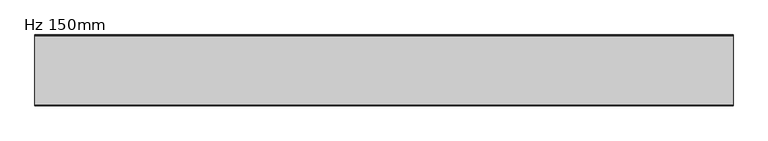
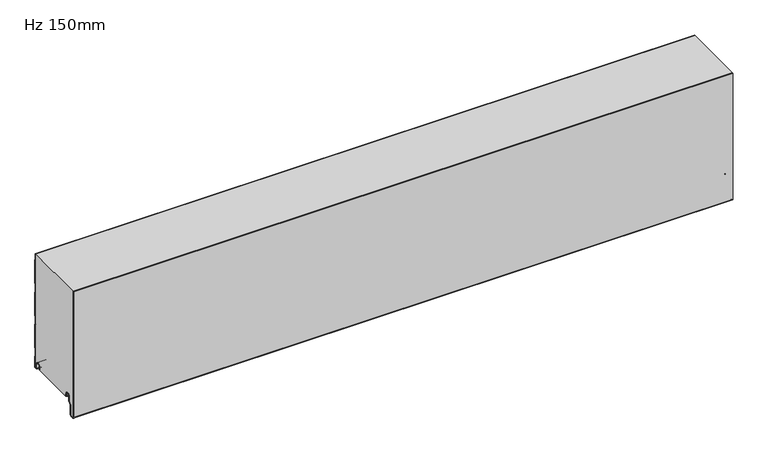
"""IFC4 building model written with IfcOpenShell, lengths in millimetres: plate geometry, KIP-MEX-KSS-1067-R19-CP-Hz-OP_SL : Hz 150mm."""

from ifc_helpers import new_model, si_unit, point, frame, frame_2d, origin, place, context, project, spatial, polyline, circle_curve, trimmed, segment, composite_curve, outline, extrude, source, transform, mapped, element, save
from ifc_brep_helpers import plane_surface, cylinder_surface, revolved_surface, advanced_brep


def hz_150mm_f9b8a2df(model_context):
    return source(origin(), model_context, "Body", "SolidModel", [
        advanced_brep(
        [(-740.0, -17.0015159, 2.0313088), (-740.0, -18.0015191, 1.0313116), (-740.0, -19.0015105, 2.0313088), (-740.0, -19.0015105, 6.0315125), (-740.0, -18.0015159, 6.0315125), (-740.0, -18.0015159, 8.7237223), (-740.0, -14.7015202, 12.023718), (-740.0, -10.301529, 12.023718), (-740.0, -7.0015335, 8.7237225), (-740.0, -7.0015335, -1.6962564), (-740.0, -5.2315393, -3.4662506), (-740.0, -0.9999916, -3.4662506), (-740.0, -0.9999916, 21.034026), (-740.0, -2.2002307, 22.4196686), (-740.0, -2.2002307, 41.7948349), (-740.0, -1.0, 43.1804679), (-740.0, -1.0, 97.2338833), (-740.0, -2.2002307, 98.6195162), (-740.0, -2.2002307, 117.9946825), (-740.0, -1.0, 119.3803155), (-740.0, -1.0, 173.4337309), (-740.0, -2.2002307, 174.8193638), (-740.0, -2.2002307, 194.1945301), (-740.0, -1.0, 195.5801631), (-740.0, -1.0, 249.6335785), (-740.0, -2.2002307, 251.0192114), (-740.0, -2.2002307, 266.0), (-740.0, -1.2002307, 266.0), (-740.0, -1.2002307, 251.3920919), (-740.0, -0.3417885, 250.4010442), (-740.0, 0.0, 249.4844273), (-740.0, 0.0, 195.7293142), (-740.0, -0.3417885, 194.8126973), (-740.0, -1.2002307, 193.8216497), (-740.0, -1.2002307, 175.1922443), (-740.0, -0.3417885, 174.2011966), (-740.0, 0.0, 173.2845797), (-740.0, 0.0, 119.5294666), (-740.0, -0.3417885, 118.6128497), (-740.0, -1.2002307, 117.6218021), (-740.0, -1.2002307, 98.9923967), (-740.0, -0.3417885, 98.001349), (-740.0, 0.0, 97.0847321), (-740.0, 0.0, 43.329619), (-740.0, -0.3417885, 42.4130021), (-740.0, -1.2002307, 41.4219545), (-740.0, -1.2002307, 22.7925491), (-740.0, -0.3417885, 21.8015014), (-740.0, 0.0, 20.8847931), (-740.0, 8.4e-06, -3.0662545), (-740.0, -1.3999878, -4.4662506), (-740.0, -5.2315393, -4.4662506), (-740.0, -8.0015335, -1.6962564), (-740.0, -8.0015335, 8.7237225), (-740.0, -10.301529, 11.023718), (-740.0, -14.7015202, 11.023718), (-740.0, -17.0015159, 8.7237223), (740.0, -17.0015159, 2.0313088), (740.0, -17.0015159, 8.7237223), (740.0, -14.7015202, 11.023718), (740.0, -10.301529, 11.023718), (740.0, -8.0015335, 8.7237225), (740.0, -8.0015335, -1.6962564), (740.0, -5.2315393, -4.4662506), (740.0, -1.3999878, -4.4662506), (740.0, 8.4e-06, -3.0662545), (740.0, 8.4e-06, 20.8848845), (740.0, -0.3417885, 21.8015014), (740.0, -1.2002307, 22.7925491), (740.0, -1.2002307, 41.4219545), (740.0, -0.3417885, 42.4130021), (740.0, 0.0, 43.329619), (740.0, 0.0, 97.0847321), (740.0, -0.3417885, 98.001349), (740.0, -1.2002307, 98.9923967), (740.0, -1.2002307, 117.6218021), (740.0, -0.3417885, 118.6128497), (740.0, 0.0, 119.5294666), (740.0, 0.0, 173.2845797), (740.0, -0.3417885, 174.2011966), (740.0, -1.2002307, 175.1922443), (740.0, -1.2002307, 193.8216497), (740.0, -0.3417885, 194.8126973), (740.0, 0.0, 195.7293142), (740.0, 0.0, 249.4844273), (740.0, -0.3417885, 250.4010442), (740.0, -1.2002307, 251.3920919), (740.0, -1.2002307, 266.0), (740.0, -2.2002307, 266.0), (740.0, -2.2002307, 251.0192114), (740.0, -1.0, 249.6335785), (740.0, -1.0, 195.5801631), (740.0, -2.2002307, 194.1945301), (740.0, -2.2002307, 174.8193638), (740.0, -1.0, 173.4337309), (740.0, -1.0, 119.3803155), (740.0, -2.2002307, 117.9946825), (740.0, -2.2002307, 98.6195162), (740.0, -1.0, 97.2338833), (740.0, -1.0, 43.1804679), (740.0, -2.2002307, 41.7948349), (740.0, -2.2002307, 22.4196686), (740.0, -0.9999916, 21.034026), (740.0, -0.9999916, -3.4662506), (740.0, -5.2315393, -3.4662506), (740.0, -7.0015335, -1.6962564), (740.0, -7.0015335, 8.7237225), (740.0, -10.301529, 12.023718), (740.0, -14.7015202, 12.023718), (740.0, -18.0015159, 8.7237223), (740.0, -18.0015159, 6.0315125), (740.0, -19.0015105, 6.0315125), (740.0, -19.0015105, 2.0313088), (740.0, -18.0015192, 1.0313116)],
        [
            (0, 1, circle_curve(frame((-740.0, -18.0015132, 2.0313088), z_axis=(-1.0, 0.0, 0.0), x_axis=(0.0, 0.0, 1.0)), 0.9999973)),
            (1, 2, circle_curve(frame((-740.0, -18.0015133, 2.0313088), z_axis=(-1.0, 0.0, 0.0), x_axis=(0.0, 0.0, 1.0)), 0.9999972)),
            (2, 3),
            (3, 4),
            (4, 5),
            (5, 6, circle_curve(frame((-740.0, -14.7015202, 8.7237223), z_axis=(-1.0, 0.0, 0.0), x_axis=(0.0, 0.0, 1.0)), 3.2999957)),
            (6, 7),
            (7, 8, circle_curve(frame((-740.0, -10.301529, 8.7237225), z_axis=(-1.0, 0.0, 0.0), x_axis=(0.0, 0.0, 1.0)), 3.2999955)),
            (8, 9),
            (9, 10, circle_curve(frame((-740.0, -5.2315393, -1.6962564), z_axis=(1.0, 0.0, 0.0), x_axis=(0.0, 0.0, 1.0)), 1.7699942)),
            (10, 11),
            (11, 12),
            (12, 13),
            (13, 14),
            (14, 15),
            (15, 16),
            (16, 17),
            (17, 18),
            (18, 19),
            (19, 20),
            (20, 21),
            (21, 22),
            (22, 23),
            (23, 24),
            (24, 25),
            (25, 26),
            (26, 27),
            (27, 28),
            (28, 29),
            (29, 30, circle_curve(frame((-740.0, -1.3999972, 249.4844273), z_axis=(-1.0, 0.0, 0.0), x_axis=(0.0, 0.0, 1.0)), 1.3999972)),
            (30, 31),
            (31, 32, circle_curve(frame((-740.0, -1.3999972, 195.7293142), z_axis=(-1.0, 0.0, 0.0), x_axis=(0.0, 0.0, 1.0)), 1.3999972)),
            (32, 33),
            (33, 34),
            (34, 35),
            (35, 36, circle_curve(frame((-740.0, -1.3999972, 173.2845797), z_axis=(-1.0, 0.0, 0.0), x_axis=(0.0, 0.0, 1.0)), 1.3999972)),
            (36, 37),
            (37, 38, circle_curve(frame((-740.0, -1.3999972, 119.5294666), z_axis=(-1.0, 0.0, 0.0), x_axis=(0.0, 0.0, 1.0)), 1.3999972)),
            (38, 39),
            (39, 40),
            (40, 41),
            (41, 42, circle_curve(frame((-740.0, -1.3999972, 97.0847321), z_axis=(-1.0, 0.0, 0.0), x_axis=(0.0, 0.0, 1.0)), 1.3999972)),
            (42, 43),
            (43, 44, circle_curve(frame((-740.0, -1.3999972, 43.329619), z_axis=(-1.0, 0.0, 0.0), x_axis=(0.0, 0.0, 1.0)), 1.3999972)),
            (44, 45),
            (45, 46),
            (46, 47),
            (47, 48, circle_curve(frame((-740.0, -1.3999972, 20.8848845), z_axis=(-1.0, 0.0, 0.0), x_axis=(0.0, 0.0, 1.0)), 1.3999972)),
            (48, 49),
            (49, 50, circle_curve(frame((-740.0, -1.3999878, -3.0662545), z_axis=(-1.0, 0.0, 0.0), x_axis=(0.0, 0.0, 1.0)), 1.3999962)),
            (50, 51),
            (51, 52, circle_curve(frame((-740.0, -5.2315393, -1.6962564), z_axis=(-1.0, 0.0, 0.0), x_axis=(0.0, 0.0, 1.0)), 2.7699942)),
            (52, 53),
            (53, 54, circle_curve(frame((-740.0, -10.301529, 8.7237225), z_axis=(1.0, 0.0, 0.0), x_axis=(0.0, 0.0, 1.0)), 2.2999955)),
            (54, 55),
            (55, 56, circle_curve(frame((-740.0, -14.7015202, 8.7237223), z_axis=(1.0, 0.0, 0.0), x_axis=(0.0, 0.0, 1.0)), 2.2999957)),
            (56, 0),
            (57, 58),
            (58, 59, circle_curve(frame((740.0, -14.7015202, 8.7237223), z_axis=(-1.0, 0.0, 0.0), x_axis=(0.0, 0.0, 1.0)), 2.2999957)),
            (59, 60),
            (60, 61, circle_curve(frame((740.0, -10.301529, 8.7237225), z_axis=(-1.0, 0.0, 0.0), x_axis=(0.0, 0.0, 1.0)), 2.2999955)),
            (61, 62),
            (62, 63, circle_curve(frame((740.0, -5.2315393, -1.6962564), z_axis=(1.0, 0.0, 0.0), x_axis=(0.0, 0.0, 1.0)), 2.7699942)),
            (63, 64),
            (64, 65, circle_curve(frame((740.0, -1.3999878, -3.0662545), z_axis=(1.0, 0.0, 0.0), x_axis=(0.0, 0.0, 1.0)), 1.3999962)),
            (65, 66),
            (66, 67, circle_curve(frame((740.0, -1.3999972, 20.8848845), z_axis=(1.0, 0.0, 0.0), x_axis=(0.0, 0.0, 1.0)), 1.3999972)),
            (67, 68),
            (68, 69),
            (69, 70),
            (70, 71, circle_curve(frame((740.0, -1.3999972, 43.329619), z_axis=(1.0, 0.0, 0.0), x_axis=(0.0, 0.0, 1.0)), 1.3999972)),
            (71, 72),
            (72, 73, circle_curve(frame((740.0, -1.3999972, 97.0847321), z_axis=(1.0, 0.0, 0.0), x_axis=(0.0, 0.0, 1.0)), 1.3999972)),
            (73, 74),
            (74, 75),
            (75, 76),
            (76, 77, circle_curve(frame((740.0, -1.3999972, 119.5294666), z_axis=(1.0, 0.0, 0.0), x_axis=(0.0, 0.0, 1.0)), 1.3999972)),
            (77, 78),
            (78, 79, circle_curve(frame((740.0, -1.3999972, 173.2845797), z_axis=(1.0, 0.0, 0.0), x_axis=(0.0, 0.0, 1.0)), 1.3999972)),
            (79, 80),
            (80, 81),
            (81, 82),
            (82, 83, circle_curve(frame((740.0, -1.3999972, 195.7293142), z_axis=(1.0, 0.0, 0.0), x_axis=(0.0, 0.0, 1.0)), 1.3999972)),
            (83, 84),
            (84, 85, circle_curve(frame((740.0, -1.3999972, 249.4844273), z_axis=(1.0, 0.0, 0.0), x_axis=(0.0, 0.0, 1.0)), 1.3999972)),
            (85, 86),
            (86, 87),
            (87, 88),
            (88, 89),
            (89, 90),
            (90, 91),
            (91, 92),
            (92, 93),
            (93, 94),
            (94, 95),
            (95, 96),
            (96, 97),
            (97, 98),
            (98, 99),
            (99, 100),
            (100, 101),
            (101, 102),
            (102, 103),
            (103, 104),
            (104, 105, circle_curve(frame((740.0, -5.2315393, -1.6962564), z_axis=(-1.0, 0.0, 0.0), x_axis=(0.0, 0.0, 1.0)), 1.7699942)),
            (105, 106),
            (106, 107, circle_curve(frame((740.0, -10.301529, 8.7237225), z_axis=(1.0, 0.0, 0.0), x_axis=(0.0, 0.0, 1.0)), 3.2999955)),
            (107, 108),
            (108, 109, circle_curve(frame((740.0, -14.7015202, 8.7237223), z_axis=(1.0, 0.0, 0.0), x_axis=(0.0, 0.0, 1.0)), 3.2999957)),
            (109, 110),
            (110, 111),
            (111, 112),
            (112, 113, circle_curve(frame((740.0, -18.0015133, 2.0313088), z_axis=(1.0, 0.0, 0.0), x_axis=(0.0, 0.0, 1.0)), 0.9999972)),
            (113, 57, circle_curve(frame((740.0, -18.0015132, 2.0313088), z_axis=(1.0, 0.0, 0.0), x_axis=(0.0, 0.0, 1.0)), 0.9999973)),
            (56, 58),
            (57, 0),
            (55, 59),
            (54, 60),
            (53, 61),
            (52, 62),
            (51, 63),
            (50, 64),
            (49, 65),
            (48, 66),
            (47, 67),
            (46, 68),
            (45, 69),
            (44, 70),
            (43, 71),
            (42, 72),
            (41, 73),
            (40, 74),
            (39, 75),
            (38, 76),
            (37, 77),
            (36, 78),
            (35, 79),
            (34, 80),
            (33, 81),
            (32, 82),
            (31, 83),
            (30, 84),
            (29, 85),
            (28, 86),
            (27, 87),
            (88, 26),
            (25, 89),
            (24, 90),
            (23, 91),
            (22, 92),
            (21, 93),
            (20, 94),
            (19, 95),
            (18, 96),
            (17, 97),
            (16, 98),
            (15, 99),
            (14, 100),
            (13, 101),
            (12, 102),
            (11, 103),
            (10, 104),
            (9, 105),
            (8, 106),
            (7, 107),
            (6, 108),
            (5, 109),
            (4, 110),
            (3, 111),
            (2, 112),
            (1, 113),
        ],
        [
            plane_surface(frame((-740.0, 0.0, 533.4), z_axis=(-1.0, 0.0, 0.0), x_axis=(0.0, 1.0, 0.0))),
            plane_surface(frame((740.0, 0.0, 533.4), z_axis=(1.0, 0.0, 0.0), x_axis=(0.0, 1.0, 0.0))),
            plane_surface(frame((-740.0, -17.0015159, 2.0313088), z_axis=(0.0, 1.0, 0.0), x_axis=(1.0, 0.0, 0.0))),
            revolved_surface(polyline([(740.0, -14.7015202, 11.023718), (-740.0, -14.7015202, 11.023718)]), (-740.0, -14.7015202, 8.7237223), (1.0, 0.0, 0.0)),
            plane_surface(frame((-740.0, -14.7015202, 11.023718), z_axis=(0.0, 0.0, -1.0), x_axis=(1.0, 0.0, 0.0))),
            revolved_surface(polyline([(740.0, -10.301529, 11.023717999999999), (-740.0, -10.301529, 11.023717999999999)]), (-740.0, -10.301529, 8.7237225), (1.0, 0.0, 0.0)),
            plane_surface(frame((-740.0, -8.0015335, 8.7237225), z_axis=(0.0, -1.0, 0.0), x_axis=(1.0, 0.0, 0.0))),
            cylinder_surface(frame((-740.0, -5.2315393, -1.6962564), z_axis=(-1.0, 0.0, 0.0), x_axis=(0.0, 0.0, 1.0)), 2.7699942),
            plane_surface(frame((-740.0, -5.2315393, -4.4662506), z_axis=(0.0, 0.0, -1.0), x_axis=(1.0, 0.0, 0.0))),
            cylinder_surface(frame((-740.0, -1.3999878, -3.0662545), z_axis=(-1.0, 0.0, 0.0), x_axis=(0.0, 0.0, 1.0)), 1.3999962),
            plane_surface(frame((-740.0, 8.4e-06, -3.0662545), z_axis=(0.0, 1.0, 0.0), x_axis=(1.0, 0.0, 0.0))),
            cylinder_surface(frame((-740.0, -1.3999972, 20.8848845), z_axis=(-1.0, 0.0, 0.0), x_axis=(0.0, 0.0, 1.0)), 1.3999972),
            plane_surface(frame((-740.0, -0.3417885, 21.8015014), z_axis=(0.0, 0.755864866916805, 0.6547276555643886), x_axis=(1.0, 0.0, 0.0))),
            plane_surface(frame((-740.0, -1.2002307, 32.1072518), z_axis=(0.0, 1.0, 0.0), x_axis=(1.0, 0.0, 0.0))),
            plane_surface(frame((-740.0, -1.2002307, 41.4219545), z_axis=(0.0, 0.755864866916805, -0.6547276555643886), x_axis=(1.0, 0.0, 0.0))),
            cylinder_surface(frame((-740.0, -1.3999972, 43.329619), z_axis=(-1.0, 0.0, 0.0), x_axis=(0.0, 0.0, 1.0)), 1.3999972),
            plane_surface(frame((-740.0, 0.0, 43.329619), z_axis=(0.0, 1.0, 0.0), x_axis=(1.0, 0.0, 0.0))),
            cylinder_surface(frame((-740.0, -1.3999972, 97.0847321), z_axis=(-1.0, 0.0, 0.0), x_axis=(0.0, 0.0, 1.0)), 1.3999972),
            plane_surface(frame((-740.0, -0.3417885, 98.001349), z_axis=(0.0, 0.755864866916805, 0.6547276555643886), x_axis=(1.0, 0.0, 0.0))),
            plane_surface(frame((-740.0, -1.2002307, 108.3070994), z_axis=(0.0, 1.0, 0.0), x_axis=(1.0, 0.0, 0.0))),
            plane_surface(frame((-740.0, -1.2002307, 117.6218021), z_axis=(0.0, 0.755864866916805, -0.6547276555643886), x_axis=(1.0, 0.0, 0.0))),
            cylinder_surface(frame((-740.0, -1.3999972, 119.5294666), z_axis=(-1.0, 0.0, 0.0), x_axis=(0.0, 0.0, 1.0)), 1.3999972),
            plane_surface(frame((-740.0, 0.0, 119.5294666), z_axis=(0.0, 1.0, 0.0), x_axis=(1.0, 0.0, 0.0))),
            cylinder_surface(frame((-740.0, -1.3999972, 173.2845797), z_axis=(-1.0, 0.0, 0.0), x_axis=(0.0, 0.0, 1.0)), 1.3999972),
            plane_surface(frame((-740.0, -0.3417885, 174.2011966), z_axis=(0.0, 0.755864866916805, 0.6547276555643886), x_axis=(1.0, 0.0, 0.0))),
            plane_surface(frame((-740.0, -1.2002307, 184.506947), z_axis=(0.0, 1.0, 0.0), x_axis=(1.0, 0.0, 0.0))),
            plane_surface(frame((-740.0, -1.2002307, 193.8216497), z_axis=(0.0, 0.755864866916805, -0.6547276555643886), x_axis=(1.0, 0.0, 0.0))),
            cylinder_surface(frame((-740.0, -1.3999972, 195.7293142), z_axis=(-1.0, 0.0, 0.0), x_axis=(0.0, 0.0, 1.0)), 1.3999972),
            plane_surface(frame((-740.0, 0.0, 195.7293142), z_axis=(0.0, 1.0, 0.0), x_axis=(1.0, 0.0, 0.0))),
            cylinder_surface(frame((-740.0, -1.3999972, 249.4844273), z_axis=(-1.0, 0.0, 0.0), x_axis=(0.0, 0.0, 1.0)), 1.3999972),
            plane_surface(frame((-740.0, -0.3417885, 250.4010442), z_axis=(0.0, 0.755864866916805, 0.6547276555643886), x_axis=(1.0, 0.0, 0.0))),
            plane_surface(frame((-740.0, -1.2002307, 260.7067946), z_axis=(0.0, 1.0, 0.0), x_axis=(1.0, 0.0, 0.0))),
            plane_surface(frame((-740.0, -2.2002307, 270.3943777), z_axis=(0.0, -1.0, 0.0), x_axis=(1.0, 0.0, 0.0))),
            plane_surface(frame((-740.0, -2.2002307, 251.0192114), z_axis=(0.0, -0.755864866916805, -0.6547276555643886), x_axis=(1.0, 0.0, 0.0))),
            plane_surface(frame((-740.0, -1.0, 249.6335785), z_axis=(0.0, -1.0, 0.0), x_axis=(1.0, 0.0, 0.0))),
            plane_surface(frame((-740.0, -1.0, 195.5801631), z_axis=(0.0, -0.755864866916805, 0.6547276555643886), x_axis=(1.0, 0.0, 0.0))),
            plane_surface(frame((-740.0, -2.2002307, 194.1945301), z_axis=(0.0, -1.0, 0.0), x_axis=(1.0, 0.0, 0.0))),
            plane_surface(frame((-740.0, -2.2002307, 174.8193638), z_axis=(0.0, -0.755864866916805, -0.6547276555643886), x_axis=(1.0, 0.0, 0.0))),
            plane_surface(frame((-740.0, -1.0, 173.4337309), z_axis=(0.0, -1.0, 0.0), x_axis=(1.0, 0.0, 0.0))),
            plane_surface(frame((-740.0, -1.0, 119.3803155), z_axis=(0.0, -0.755864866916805, 0.6547276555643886), x_axis=(1.0, 0.0, 0.0))),
            plane_surface(frame((-740.0, -2.2002307, 117.9946825), z_axis=(0.0, -1.0, 0.0), x_axis=(1.0, 0.0, 0.0))),
            plane_surface(frame((-740.0, -2.2002307, 98.6195162), z_axis=(0.0, -0.755864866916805, -0.6547276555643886), x_axis=(1.0, 0.0, 0.0))),
            plane_surface(frame((-740.0, -1.0, 97.2338833), z_axis=(0.0, -1.0, 0.0), x_axis=(1.0, 0.0, 0.0))),
            plane_surface(frame((-740.0, -1.0, 43.1804679), z_axis=(0.0, -0.755864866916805, 0.6547276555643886), x_axis=(1.0, 0.0, 0.0))),
            plane_surface(frame((-740.0, -2.2002307, 41.7948349), z_axis=(0.0, -1.0, 0.0), x_axis=(1.0, 0.0, 0.0))),
            plane_surface(frame((-740.0, -2.2002307, 22.4196686), z_axis=(0.0, -0.755864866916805, -0.6547276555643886), x_axis=(1.0, 0.0, 0.0))),
            plane_surface(frame((-740.0, -0.9999916, 21.034026), z_axis=(0.0, -1.0, 0.0), x_axis=(1.0, 0.0, 0.0))),
            plane_surface(frame((-740.0, -0.9999916, -3.4662506), z_axis=(0.0, 0.0, 1.0), x_axis=(1.0, 0.0, 0.0))),
            revolved_surface(polyline([(740.0, -5.2315393, 0.07373779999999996), (-740.0, -5.2315393, 0.07373779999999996)]), (-740.0, -5.2315393, -1.6962564), (1.0, 0.0, 0.0)),
            plane_surface(frame((-740.0, -7.0015335, -1.6962564), z_axis=(0.0, 1.0, 0.0), x_axis=(1.0, 0.0, 0.0))),
            cylinder_surface(frame((-740.0, -10.301529, 8.7237225), z_axis=(-1.0, 0.0, 0.0), x_axis=(0.0, 0.0, 1.0)), 3.2999955),
            plane_surface(frame((-740.0, -10.301529, 12.023718), z_axis=(0.0, 0.0, 1.0), x_axis=(1.0, 0.0, 0.0))),
            cylinder_surface(frame((-740.0, -14.7015202, 8.7237223), z_axis=(-1.0, 0.0, 0.0), x_axis=(0.0, 0.0, 1.0)), 3.2999957),
            plane_surface(frame((-740.0, -18.0015159, 8.7237223), z_axis=(0.0, -1.0, 0.0), x_axis=(1.0, 0.0, 0.0))),
            plane_surface(frame((-740.0, -18.0015159, 6.0315125), z_axis=(0.0, 0.0, 1.0), x_axis=(1.0, 0.0, 0.0))),
            plane_surface(frame((-740.0, -19.0015105, 6.0315125), z_axis=(0.0, -1.0, 0.0), x_axis=(1.0, 0.0, 0.0))),
            cylinder_surface(frame((-740.0, -18.0015133, 2.0313088), z_axis=(-1.0, 0.0, 0.0), x_axis=(0.0, 0.0, 1.0)), 0.9999972),
            cylinder_surface(frame((-740.0, -18.0015132, 2.0313088), z_axis=(-1.0, 0.0, 0.0), x_axis=(0.0, 0.0, 1.0)), 0.9999973),
            plane_surface(frame((740.0, 10.0, 266.0), z_axis=(0.0, 0.0, 1.0), x_axis=(-1.0, 0.0, 0.0))),
        ],
        [
            (0, [[1, 2, 3, 4, 5, 6, 7, 8, 9, 10, 11, 12, 13, 14, 15, 16, 17, 18, 19, 20, 21, 22, 23, 24, 25, 26, 27, 28, 29, 30, 31, 32, 33, 34, 35, 36, 37, 38, 39, 40, 41, 42, 43, 44, 45, 46, 47, 48, 49, 50, 51, 52, 53, 54, 55, 56, 57]]),
            (1, [[58, 59, 60, 61, 62, 63, 64, 65, 66, 67, 68, 69, 70, 71, 72, 73, 74, 75, 76, 77, 78, 79, 80, 81, 82, 83, 84, 85, 86, 87, 88, 89, 90, 91, 92, 93, 94, 95, 96, 97, 98, 99, 100, 101, 102, 103, 104, 105, 106, 107, 108, 109, 110, 111, 112, 113, 114]]),
            (2, [[115, -58, 116, -57]]),
            (3, [[117, -59, -115, -56]]),
            (4, [[118, -60, -117, -55]]),
            (5, [[119, -61, -118, -54]]),
            (6, [[120, -62, -119, -53]]),
            (7, [[121, -63, -120, -52]]),
            (8, [[122, -64, -121, -51]]),
            (9, [[123, -65, -122, -50]]),
            (10, [[124, -66, -123, -49]]),
            (11, [[125, -67, -124, -48]]),
            (12, [[126, -68, -125, -47]]),
            (13, [[127, -69, -126, -46]]),
            (14, [[128, -70, -127, -45]]),
            (15, [[129, -71, -128, -44]]),
            (16, [[130, -72, -129, -43]]),
            (17, [[131, -73, -130, -42]]),
            (18, [[132, -74, -131, -41]]),
            (19, [[133, -75, -132, -40]]),
            (20, [[134, -76, -133, -39]]),
            (21, [[135, -77, -134, -38]]),
            (22, [[136, -78, -135, -37]]),
            (23, [[137, -79, -136, -36]]),
            (24, [[138, -80, -137, -35]]),
            (25, [[139, -81, -138, -34]]),
            (26, [[140, -82, -139, -33]]),
            (27, [[141, -83, -140, -32]]),
            (28, [[142, -84, -141, -31]]),
            (29, [[143, -85, -142, -30]]),
            (30, [[144, -86, -143, -29]]),
            (31, [[-28, 145, -87, -144]]),
            (32, [[-89, 146, -26, 147]]),
            (33, [[148, -90, -147, -25]]),
            (34, [[149, -91, -148, -24]]),
            (35, [[150, -92, -149, -23]]),
            (36, [[151, -93, -150, -22]]),
            (37, [[152, -94, -151, -21]]),
            (38, [[153, -95, -152, -20]]),
            (39, [[154, -96, -153, -19]]),
            (40, [[155, -97, -154, -18]]),
            (41, [[156, -98, -155, -17]]),
            (42, [[157, -99, -156, -16]]),
            (43, [[158, -100, -157, -15]]),
            (44, [[159, -101, -158, -14]]),
            (45, [[160, -102, -159, -13]]),
            (46, [[161, -103, -160, -12]]),
            (47, [[162, -104, -161, -11]]),
            (48, [[163, -105, -162, -10]]),
            (49, [[164, -106, -163, -9]]),
            (50, [[165, -107, -164, -8]]),
            (51, [[166, -108, -165, -7]]),
            (52, [[167, -109, -166, -6]]),
            (53, [[168, -110, -167, -5]]),
            (54, [[169, -111, -168, -4]]),
            (55, [[170, -112, -169, -3]]),
            (56, [[171, -113, -170, -2]]),
            (57, [[-116, -114, -171, -1]]),
            (58, [[-146, -88, -145, -27]]),
        ],
    ),
        extrude(outline(composite_curve([segment(trimmed(circle_curve(frame_2d((-146.4297607, -32.4521176)), 3.5702393), [point((-146.1184903, -36.008762))], [point((-150.0, -32.4521176))], False, "CARTESIAN"), True, "CONTINUOUS"), segment(polyline([(-150.0, -32.4521176), (-150.0, 266.0), (-148.9993606, 266.0), (-148.9993606, -32.509446)]), True, "CONTINUOUS"), segment(trimmed(circle_curve(frame_2d((-146.4297607, -32.4521176)), 2.5702393), [point((-148.9993606, -32.509446))], [point((-146.2056751, -35.0125699))], True, "CARTESIAN"), True, "CONTINUOUS"), segment(polyline([(-146.2056751, -35.0125699), (-141.2238542, -34.5765709)]), True, "CONTINUOUS"), segment(trimmed(circle_curve(frame_2d((-141.7052448, -31.9198392)), 2.6999926), [point((-141.2238542, -34.5765709))], [point((-139.0052522, -31.9198392))], True, "CARTESIAN"), True, "CONTINUOUS"), segment(polyline([(-139.0052522, -31.9198392), (-139.0052522, -9.8247096), (-133.5031811, -4.3226385)]), True, "CONTINUOUS"), segment(trimmed(circle_curve(frame_2d((-134.7052588, -3.1205608)), 1.6999946), [point((-133.5031811, -4.3226385))], [point((-133.0052642, -3.1205608))], True, "CARTESIAN"), True, "CONTINUOUS"), segment(polyline([(-133.0052642, -3.1205608), (-133.0052642, 8.6903283)]), True, "CONTINUOUS"), segment(trimmed(circle_curve(frame_2d((-129.6552689, 8.6903283)), 3.3499953), [point((-133.0052642, 8.6903283))], [point((-129.6552689, 12.0403236))], False, "CARTESIAN"), True, "CONTINUOUS"), segment(polyline([(-129.6552689, 12.0403236), (-125.2552777, 12.0403236)]), True, "CONTINUOUS"), segment(trimmed(circle_curve(frame_2d((-125.2552777, 8.6903283)), 3.3499953), [point((-125.2552777, 12.0403236))], [point((-121.9052824, 8.6903283))], False, "CARTESIAN"), True, "CONTINUOUS"), segment(polyline([(-121.9052824, 8.6903283), (-121.9052824, 5.9912173), (-120.5068035, 5.9912173), (-120.5068035, 2.2328239)]), True, "CONTINUOUS"), segment(trimmed(circle_curve(frame_2d((-121.7068002, 2.2313092)), 1.1999976), [point((-120.5068035, 2.2328239))], [point((-121.6762782, 1.0316999))], False, "CARTESIAN"), True, "CONTINUOUS"), segment(trimmed(circle_curve(frame_2d((-121.7068002, 2.2313092)), 1.1999976), [point((-121.6762782, 1.0316999))], [point((-122.9052824, 2.1710221))], False, "CARTESIAN"), True, "CONTINUOUS"), segment(polyline([(-122.9052824, 2.1710221), (-122.9052824, 8.6903283)]), True, "CONTINUOUS"), segment(trimmed(circle_curve(frame_2d((-125.2552777, 8.6903283)), 2.3499953), [point((-122.9052824, 8.6903283))], [point((-125.2552777, 11.0403236))], True, "CARTESIAN"), True, "CONTINUOUS"), segment(polyline([(-125.2552777, 11.0403236), (-129.6552689, 11.0403236)]), True, "CONTINUOUS"), segment(trimmed(circle_curve(frame_2d((-129.6552689, 8.6903283)), 2.3499953), [point((-129.6552689, 11.0403236))], [point((-132.0052642, 8.6903283))], True, "CARTESIAN"), True, "CONTINUOUS"), segment(polyline([(-132.0052642, 8.6903283), (-132.0052642, -3.1205608)]), True, "CONTINUOUS"), segment(trimmed(circle_curve(frame_2d((-134.7052588, -3.1205608)), 2.6999946), [point((-132.0052642, -3.1205608))], [point((-132.7960743, -5.0297453))], False, "CARTESIAN"), True, "CONTINUOUS"), segment(polyline([(-132.7960743, -5.0297453), (-137.6244918, -9.8581627)]), True, "CONTINUOUS"), segment(trimmed(circle_curve(frame_2d((-136.7052548, -10.7773997)), 1.2999974), [point((-137.6244918, -9.8581627))], [point((-138.0052522, -10.7773997))], True, "CARTESIAN"), True, "CONTINUOUS"), segment(polyline([(-138.0052522, -10.7773997), (-138.0052522, -31.9198392)]), True, "CONTINUOUS"), segment(trimmed(circle_curve(frame_2d((-141.7052448, -31.9198392)), 3.6999926), [point((-138.0052522, -31.9198392))], [point((-141.0944437, -35.5690675))], False, "CARTESIAN"), True, "CONTINUOUS"), segment(polyline([(-141.0944437, -35.5690675), (-146.1184903, -36.008762)]), True, "CONTINUOUS")], self_intersect=False)), frame((-740.0, 0.0, 0.0), z_axis=(1.0, 0.0, 0.0), x_axis=(0.0, 1.0, 0.0)), (0.0, 0.0, 1.0), 1480.0),
        advanced_brep(
        [(-740.0, -121.670875, 1.0316999), (-740.0, -120.5014003, 2.2328239), (-740.0, -120.5014003, 5.9912173), (-740.0, -121.8998791, 5.9912173), (-740.0, -121.8998791, 8.6903283), (-740.0, -125.2498744, 12.0403236), (-740.0, -129.6498656, 12.0403236), (-740.0, -132.9998609, 8.6903283), (-740.0, -132.9998609, -3.1205608), (-740.0, -133.4977778, -4.3226385), (-740.0, -138.9998489, -9.8247096), (-740.0, -138.9998489, -31.9198392), (-740.0, -141.2184509, -34.5765709), (-740.0, -146.2002718, -35.0125699), (-740.0, -148.9945967, -32.4521176), (-740.0, -149.0, 266.0), (-740.0, -2.2002307, 266.0), (-740.0, -2.2002307, 251.0192115), (-740.0, -1.0, 249.6335785), (-740.0, -1.0, 195.5801631), (-740.0, -2.2002307, 194.1945302), (-740.0, -2.2002307, 174.8193639), (-740.0, -1.0, 173.4337309), (-740.0, -1.0, 119.3803155), (-740.0, -2.2002307, 117.9946826), (-740.0, -2.2002307, 98.6195163), (-740.0, -1.0, 97.2338833), (-740.0, -1.0, 43.1804679), (-740.0, -2.2002307, 41.794835), (-740.0, -2.2002307, 22.4196687), (-740.0, -0.9999916, 21.034026), (-740.0, -0.9999916, -3.4662506), (-740.0, -5.2315389, -3.4662506), (-740.0, -7.0015331, -1.6962564), (-740.0, -7.0015331, 8.7237222), (-740.0, -10.301529, 12.023718), (-740.0, -14.7015202, 12.023718), (-740.0, -18.0015159, 8.7237223), (-740.0, -18.0015159, 6.0315125), (-740.0, -19.0015105, 6.0315125), (-740.0, -19.0015105, 2.0313089), (-740.0, -18.0015192, 1.0313117), (-740.0, -19.0328308, 0.0), (-740.0, -120.6391751, 0.0), (740.0, -121.670875, 1.0316999), (740.0, -120.6391751, 0.0), (740.0, -19.0328308, 0.0), (740.0, -18.0015192, 1.0313117), (740.0, -19.0015105, 2.0313089), (740.0, -19.0015105, 6.0315125), (740.0, -18.0015159, 6.0315125), (740.0, -18.0015159, 8.7237223), (740.0, -14.7015202, 12.023718), (740.0, -10.301529, 12.023718), (740.0, -7.0015331, 8.7237222), (740.0, -7.0015331, -1.6962564), (740.0, -5.2315389, -3.4662506), (740.0, -0.9999916, -3.4662506), (740.0, -0.9999916, 21.034026), (740.0, -2.2002307, 22.4196687), (740.0, -2.2002307, 41.794835), (740.0, -1.0, 43.1804679), (740.0, -1.0, 97.2338833), (740.0, -2.2002307, 98.6195163), (740.0, -2.2002307, 117.9946826), (740.0, -1.0, 119.3803155), (740.0, -1.0, 173.4337309), (740.0, -2.2002307, 174.8193639), (740.0, -2.2002307, 194.1945302), (740.0, -1.0, 195.5801631), (740.0, -1.0, 249.6335785), (740.0, -2.2002307, 251.0192115), (740.0, -2.2002307, 266.0), (740.0, -149.0, 266.0), (740.0, -149.0, -32.4521176), (740.0, -146.2002718, -35.0125699), (740.0, -141.2184509, -34.5765709), (740.0, -138.9998489, -31.9198392), (740.0, -138.9998489, -9.8247096), (740.0, -133.4977778, -4.3226385), (740.0, -132.9998609, -3.1205608), (740.0, -132.9998609, 8.6903283), (740.0, -129.6498656, 12.0403236), (740.0, -125.2498744, 12.0403236), (740.0, -121.8998791, 8.6903283), (740.0, -121.8998791, 5.9912173), (740.0, -120.5014003, 5.9912173), (740.0, -120.5014003, 2.2328239)],
        [
            (0, 1, circle_curve(frame((-740.0, -121.7013969, 2.2313092), z_axis=(1.0, 0.0, 0.0), x_axis=(0.0, 0.0, -1.0)), 1.1999976)),
            (1, 2),
            (2, 3),
            (3, 4),
            (4, 5, circle_curve(frame((-740.0, -125.2498744, 8.6903283), z_axis=(1.0, 0.0, 0.0), x_axis=(0.0, 0.0, -1.0)), 3.3499953)),
            (5, 6),
            (6, 7, circle_curve(frame((-740.0, -129.6498656, 8.6903283), z_axis=(1.0, 0.0, 0.0), x_axis=(0.0, 0.0, -1.0)), 3.3499953)),
            (7, 8),
            (8, 9, circle_curve(frame((-740.0, -134.6998555, -3.1205608), z_axis=(-1.0, 0.0, 0.0), x_axis=(0.0, 0.0, -1.0)), 1.6999946)),
            (9, 10),
            (10, 11),
            (11, 12, circle_curve(frame((-740.0, -141.6998415, -31.9198392), z_axis=(-1.0, 0.0, 0.0), x_axis=(0.0, 0.0, -1.0)), 2.6999926)),
            (12, 13),
            (13, 14, circle_curve(frame((-740.0, -146.4243575, -32.4521176), z_axis=(-1.0, 0.0, 0.0), x_axis=(0.0, 0.0, -1.0)), 2.5702393)),
            (14, 15),
            (15, 16),
            (16, 17),
            (17, 18),
            (18, 19),
            (19, 20),
            (20, 21),
            (21, 22),
            (22, 23),
            (23, 24),
            (24, 25),
            (25, 26),
            (26, 27),
            (27, 28),
            (28, 29),
            (29, 30),
            (30, 31),
            (31, 32),
            (32, 33, circle_curve(frame((-740.0, -5.2315389, -1.6962564), z_axis=(-1.0, 0.0, 0.0), x_axis=(0.0, 0.0, -1.0)), 1.7699942)),
            (33, 34),
            (34, 35, circle_curve(frame((-740.0, -10.301529, 8.7237222), z_axis=(1.0, 0.0, 0.0), x_axis=(0.0, 0.0, -1.0)), 3.2999959)),
            (35, 36),
            (36, 37, circle_curve(frame((-740.0, -14.7015202, 8.7237223), z_axis=(1.0, 0.0, 0.0), x_axis=(0.0, 0.0, -1.0)), 3.2999957)),
            (37, 38),
            (38, 39),
            (39, 40),
            (40, 41, circle_curve(frame((-740.0, -18.0015133, 2.0313089), z_axis=(1.0, 0.0, 0.0), x_axis=(0.0, 0.0, -1.0)), 0.9999972)),
            (41, 42),
            (42, 43),
            (43, 0),
            (44, 45),
            (45, 46),
            (46, 47),
            (47, 48, circle_curve(frame((740.0, -18.0015133, 2.0313089), z_axis=(-1.0, 0.0, 0.0), x_axis=(0.0, 0.0, -1.0)), 0.9999972)),
            (48, 49),
            (49, 50),
            (50, 51),
            (51, 52, circle_curve(frame((740.0, -14.7015202, 8.7237223), z_axis=(-1.0, 0.0, 0.0), x_axis=(0.0, 0.0, -1.0)), 3.2999957)),
            (52, 53),
            (53, 54, circle_curve(frame((740.0, -10.301529, 8.7237222), z_axis=(-1.0, 0.0, 0.0), x_axis=(0.0, 0.0, -1.0)), 3.2999959)),
            (54, 55),
            (55, 56, circle_curve(frame((740.0, -5.2315389, -1.6962564), z_axis=(1.0, 0.0, 0.0), x_axis=(0.0, 0.0, -1.0)), 1.7699942)),
            (56, 57),
            (57, 58),
            (58, 59),
            (59, 60),
            (60, 61),
            (61, 62),
            (62, 63),
            (63, 64),
            (64, 65),
            (65, 66),
            (66, 67),
            (67, 68),
            (68, 69),
            (69, 70),
            (70, 71),
            (71, 72),
            (72, 73),
            (73, 74),
            (74, 75, circle_curve(frame((740.0, -146.4243575, -32.4521176), z_axis=(1.0, 0.0, 0.0), x_axis=(0.0, 0.0, -1.0)), 2.5702393)),
            (75, 76),
            (76, 77, circle_curve(frame((740.0, -141.6998415, -31.9198392), z_axis=(1.0, 0.0, 0.0), x_axis=(0.0, 0.0, -1.0)), 2.6999926)),
            (77, 78),
            (78, 79),
            (79, 80, circle_curve(frame((740.0, -134.6998555, -3.1205608), z_axis=(1.0, 0.0, 0.0), x_axis=(0.0, 0.0, -1.0)), 1.6999946)),
            (80, 81),
            (81, 82, circle_curve(frame((740.0, -129.6498656, 8.6903283), z_axis=(-1.0, 0.0, 0.0), x_axis=(0.0, 0.0, -1.0)), 3.3499953)),
            (82, 83),
            (83, 84, circle_curve(frame((740.0, -125.2498744, 8.6903283), z_axis=(-1.0, 0.0, 0.0), x_axis=(0.0, 0.0, -1.0)), 3.3499953)),
            (84, 85),
            (85, 86),
            (86, 87),
            (87, 44, circle_curve(frame((740.0, -121.7013969, 2.2313092), z_axis=(-1.0, 0.0, 0.0), x_axis=(0.0, 0.0, -1.0)), 1.1999976)),
            (41, 47),
            (46, 42),
            (40, 48),
            (39, 49),
            (38, 50),
            (37, 51),
            (36, 52),
            (35, 53),
            (34, 54),
            (33, 55),
            (32, 56),
            (31, 57),
            (30, 58),
            (29, 59),
            (28, 60),
            (27, 61),
            (26, 62),
            (25, 63),
            (24, 64),
            (23, 65),
            (22, 66),
            (21, 67),
            (20, 68),
            (19, 69),
            (18, 70),
            (17, 71),
            (16, 72),
            (15, 73),
            (43, 45),
            (44, 0),
            (14, 74),
            (13, 75),
            (12, 76),
            (11, 77),
            (10, 78),
            (9, 79),
            (8, 80),
            (7, 81),
            (6, 82),
            (5, 83),
            (4, 84),
            (3, 85),
            (2, 86),
            (1, 87),
        ],
        [
            plane_surface(frame((-740.0, -149.0, 533.4), z_axis=(-1.0, 0.0, 0.0), x_axis=(0.0, -1.0, 0.0))),
            plane_surface(frame((740.0, -149.0, 533.4), z_axis=(1.0, 0.0, 0.0), x_axis=(0.0, -1.0, 0.0))),
            plane_surface(frame((-740.0, -19.0328308, 0.0), z_axis=(0.0, 0.7071067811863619, -0.7071067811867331), x_axis=(1.0, 0.0, 0.0))),
            revolved_surface(polyline([(740.0, -18.0015133, 1.0313116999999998), (-740.0, -18.0015133, 1.0313116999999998)]), (-740.0, -18.0015133, 2.0313089), (1.0, 0.0, 0.0)),
            plane_surface(frame((-740.0, -19.0015105, 2.0313089), z_axis=(0.0, 1.0, 0.0), x_axis=(1.0, 0.0, 0.0))),
            plane_surface(frame((-740.0, -19.0015105, 6.0315125), z_axis=(0.0, 0.0, -1.0), x_axis=(1.0, 0.0, 0.0))),
            plane_surface(frame((-740.0, -18.0015159, 6.0315125), z_axis=(0.0, 1.0, 0.0), x_axis=(1.0, 0.0, 0.0))),
            revolved_surface(polyline([(740.0, -14.7015202, 5.4237266), (-740.0, -14.7015202, 5.4237266)]), (-740.0, -14.7015202, 8.7237223), (1.0, 0.0, 0.0)),
            plane_surface(frame((-740.0, -14.7015202, 12.023718), z_axis=(0.0, 0.0, -1.0), x_axis=(1.0, 0.0, 0.0))),
            revolved_surface(polyline([(740.0, -10.301529, 5.423726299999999), (-740.0, -10.301529, 5.423726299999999)]), (-740.0, -10.301529, 8.7237222), (1.0, 0.0, 0.0)),
            plane_surface(frame((-740.0, -7.0015331, 8.7237222), z_axis=(0.0, -1.0, 0.0), x_axis=(1.0, 0.0, 0.0))),
            cylinder_surface(frame((-740.0, -5.2315389, -1.6962564), z_axis=(-1.0, 0.0, 0.0), x_axis=(0.0, 0.0, -1.0)), 1.7699942),
            plane_surface(frame((-740.0, -5.2315389, -3.4662506), z_axis=(0.0, 0.0, -1.0), x_axis=(1.0, 0.0, 0.0))),
            plane_surface(frame((-740.0, -0.9999916, -3.4662506), z_axis=(0.0, 1.0, 0.0), x_axis=(1.0, 0.0, 0.0))),
            plane_surface(frame((-740.0, -0.9999916, 21.034026), z_axis=(0.0, 0.7558648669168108, 0.6547276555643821), x_axis=(1.0, 0.0, 0.0))),
            plane_surface(frame((-740.0, -2.2002307, 22.4196687), z_axis=(0.0, 1.0, 0.0), x_axis=(1.0, 0.0, 0.0))),
            plane_surface(frame((-740.0, -2.2002307, 41.794835), z_axis=(0.0, 0.7558648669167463, -0.6547276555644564), x_axis=(1.0, 0.0, 0.0))),
            plane_surface(frame((-740.0, -1.0, 43.1804679), z_axis=(0.0, 1.0, 0.0), x_axis=(1.0, 0.0, 0.0))),
            plane_surface(frame((-740.0, -1.0, 97.2338833), z_axis=(0.0, 0.7558648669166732, 0.6547276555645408), x_axis=(1.0, 0.0, 0.0))),
            plane_surface(frame((-740.0, -2.2002307, 98.6195163), z_axis=(0.0, 1.0, 0.0), x_axis=(1.0, 0.0, 0.0))),
            plane_surface(frame((-740.0, -2.2002307, 117.9946826), z_axis=(0.0, 0.7558648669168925, -0.6547276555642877), x_axis=(1.0, 0.0, 0.0))),
            plane_surface(frame((-740.0, -1.0, 119.3803155), z_axis=(0.0, 1.0, 0.0), x_axis=(1.0, 0.0, 0.0))),
            plane_surface(frame((-740.0, -1.0, 173.4337309), z_axis=(0.0, 0.7558648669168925, 0.6547276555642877), x_axis=(1.0, 0.0, 0.0))),
            plane_surface(frame((-740.0, -2.2002307, 174.8193639), z_axis=(0.0, 1.0, 0.0), x_axis=(1.0, 0.0, 0.0))),
            plane_surface(frame((-740.0, -2.2002307, 194.1945302), z_axis=(0.0, 0.7558648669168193, -0.6547276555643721), x_axis=(1.0, 0.0, 0.0))),
            plane_surface(frame((-740.0, -1.0, 195.5801631), z_axis=(0.0, 1.0, 0.0), x_axis=(1.0, 0.0, 0.0))),
            plane_surface(frame((-740.0, -1.0, 249.6335785), z_axis=(0.0, 0.7558648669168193, 0.6547276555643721), x_axis=(1.0, 0.0, 0.0))),
            plane_surface(frame((-740.0, -2.2002307, 251.0192115), z_axis=(0.0, 1.0, 0.0), x_axis=(1.0, 0.0, 0.0))),
            plane_surface(frame((740.0, 10.0, 266.0), z_axis=(0.0, 0.0, 1.0), x_axis=(-1.0, 0.0, 0.0))),
            plane_surface(frame((-740.0, -121.670875, 1.0316999), z_axis=(0.0, -0.7071067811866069, -0.7071067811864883), x_axis=(1.0, 0.0, 0.0))),
            plane_surface(frame((-740.0, -149.0, 1024.665622), z_axis=(0.0, -1.0, 0.0), x_axis=(1.0, 0.0, 0.0))),
            cylinder_surface(frame((-740.0, -146.4243575, -32.4521176), z_axis=(-1.0, 0.0, 0.0), x_axis=(0.0, 0.0, -1.0)), 2.5702393),
            plane_surface(frame((-740.0, -120.6391751, 0.0), z_axis=(0.0, 0.0, -1.0), x_axis=(1.0, 0.0, 0.0))),
            plane_surface(frame((-740.0, -146.2002718, -35.0125699), z_axis=(0.0, 0.08718474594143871, -0.9961921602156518), x_axis=(1.0, 0.0, 0.0))),
            cylinder_surface(frame((-740.0, -141.6998415, -31.9198392), z_axis=(-1.0, 0.0, 0.0), x_axis=(0.0, 0.0, -1.0)), 2.6999926),
            plane_surface(frame((-740.0, -138.9998489, -31.9198392), z_axis=(0.0, 1.0, 0.0), x_axis=(1.0, 0.0, 0.0))),
            plane_surface(frame((-740.0, -138.9998489, -9.8247096), z_axis=(0.0, 0.7071067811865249, -0.7071067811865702), x_axis=(1.0, 0.0, 0.0))),
            cylinder_surface(frame((-740.0, -134.6998555, -3.1205608), z_axis=(-1.0, 0.0, 0.0), x_axis=(0.0, 0.0, -1.0)), 1.6999946),
            plane_surface(frame((-740.0, -132.9998609, -3.1205608), z_axis=(0.0, 1.0, 0.0), x_axis=(1.0, 0.0, 0.0))),
            revolved_surface(polyline([(740.0, -129.6498656, 5.340332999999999), (-740.0, -129.6498656, 5.340332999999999)]), (-740.0, -129.6498656, 8.6903283), (1.0, 0.0, 0.0)),
            plane_surface(frame((-740.0, -129.6498656, 12.0403236), z_axis=(0.0, 0.0, -1.0), x_axis=(1.0, 0.0, 0.0))),
            revolved_surface(polyline([(740.0, -125.2498744, 5.340332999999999), (-740.0, -125.2498744, 5.340332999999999)]), (-740.0, -125.2498744, 8.6903283), (1.0, 0.0, 0.0)),
            plane_surface(frame((-740.0, -121.8998791, 8.6903283), z_axis=(0.0, -1.0, 0.0), x_axis=(1.0, 0.0, 0.0))),
            plane_surface(frame((-740.0, -121.8998791, 5.9912173), z_axis=(0.0, 0.0, -1.0), x_axis=(1.0, 0.0, 0.0))),
            plane_surface(frame((-740.0, -120.5014003, 5.9912173), z_axis=(0.0, -1.0, 0.0), x_axis=(1.0, 0.0, 0.0))),
            revolved_surface(polyline([(740.0, -121.7013969, 1.0313116), (-740.0, -121.7013969, 1.0313116)]), (-740.0, -121.7013969, 2.2313092), (1.0, 0.0, 0.0)),
        ],
        [
            (0, [[1, 2, 3, 4, 5, 6, 7, 8, 9, 10, 11, 12, 13, 14, 15, 16, 17, 18, 19, 20, 21, 22, 23, 24, 25, 26, 27, 28, 29, 30, 31, 32, 33, 34, 35, 36, 37, 38, 39, 40, 41, 42, 43, 44]]),
            (1, [[45, 46, 47, 48, 49, 50, 51, 52, 53, 54, 55, 56, 57, 58, 59, 60, 61, 62, 63, 64, 65, 66, 67, 68, 69, 70, 71, 72, 73, 74, 75, 76, 77, 78, 79, 80, 81, 82, 83, 84, 85, 86, 87, 88]]),
            (2, [[89, -47, 90, -42]]),
            (3, [[91, -48, -89, -41]]),
            (4, [[92, -49, -91, -40]]),
            (5, [[93, -50, -92, -39]]),
            (6, [[94, -51, -93, -38]]),
            (7, [[95, -52, -94, -37]]),
            (8, [[96, -53, -95, -36]]),
            (9, [[97, -54, -96, -35]]),
            (10, [[98, -55, -97, -34]]),
            (11, [[99, -56, -98, -33]]),
            (12, [[100, -57, -99, -32]]),
            (13, [[101, -58, -100, -31]]),
            (14, [[102, -59, -101, -30]]),
            (15, [[103, -60, -102, -29]]),
            (16, [[104, -61, -103, -28]]),
            (17, [[105, -62, -104, -27]]),
            (18, [[106, -63, -105, -26]]),
            (19, [[107, -64, -106, -25]]),
            (20, [[108, -65, -107, -24]]),
            (21, [[109, -66, -108, -23]]),
            (22, [[110, -67, -109, -22]]),
            (23, [[111, -68, -110, -21]]),
            (24, [[112, -69, -111, -20]]),
            (25, [[113, -70, -112, -19]]),
            (26, [[114, -71, -113, -18]]),
            (27, [[-17, 115, -72, -114]]),
            (28, [[116, -73, -115, -16]]),
            (29, [[117, -45, 118, -44]]),
            (30, [[-74, -116, -15, 119]]),
            (31, [[120, -75, -119, -14]]),
            (32, [[-43, -90, -46, -117]]),
            (33, [[121, -76, -120, -13]]),
            (34, [[122, -77, -121, -12]]),
            (35, [[123, -78, -122, -11]]),
            (36, [[124, -79, -123, -10]]),
            (37, [[125, -80, -124, -9]]),
            (38, [[126, -81, -125, -8]]),
            (39, [[127, -82, -126, -7]]),
            (40, [[128, -83, -127, -6]]),
            (41, [[129, -84, -128, -5]]),
            (42, [[130, -85, -129, -4]]),
            (43, [[131, -86, -130, -3]]),
            (44, [[132, -87, -131, -2]]),
            (45, [[-118, -88, -132, -1]]),
        ],
    ),
    ])


if __name__ == "__main__":
    model = new_model("IFC4")
    model_context = context("Model", 3, world=origin())
    ifc_project = project(units=[si_unit("LENGTHUNIT", "METRE", prefix="MILLI")], contexts=[model_context])
    site = spatial("IfcSite", under=ifc_project)
    building = spatial("IfcBuilding", under=site)
    placement = place(None, origin())
    hz_150mm_shape = hz_150mm_f9b8a2df(model_context)
    element("IfcPlate", 1, ObjectType="KIP-MEX-KSS-1067-R19-CP-Hz-OP_SL : Hz 150mm", at=placement, inside=building, context=model_context, shape_type="MappedRepresentation", body=[
        mapped(hz_150mm_shape, transform((0.0, 0.0, 0.0), x_axis=(1.0, 0.0, 0.0), y_axis=(0.0, 1.0, 0.0), z_axis=(0.0, 0.0, 1.0))),
    ])
    save(model, "model.ifc")
